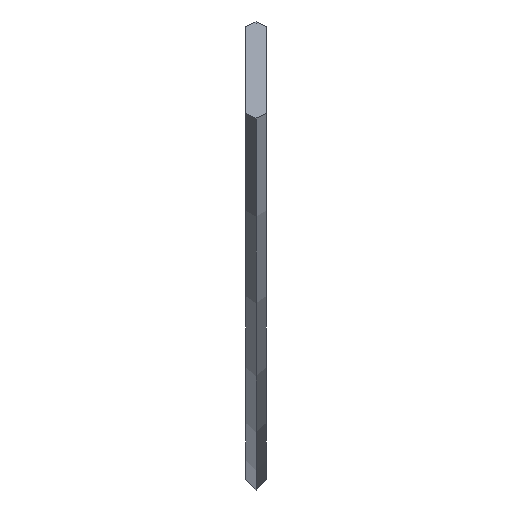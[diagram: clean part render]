
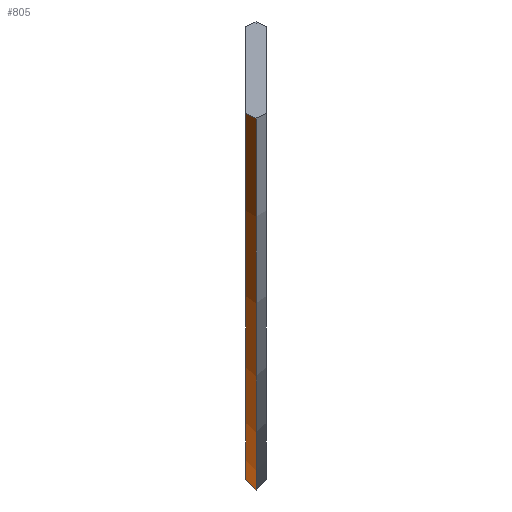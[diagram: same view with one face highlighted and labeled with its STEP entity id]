
A CAD part, front view. The second image highlights one B-rep face of the part: STEP entity #805.
In plain terms, the highlighted conical face has half-angle 45 degrees and reference radius 214 mm.
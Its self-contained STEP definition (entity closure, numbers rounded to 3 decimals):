
#43 = PLANE('',#44);
#44 = AXIS2_PLACEMENT_3D('',#45,#46,#47);
#45 = CARTESIAN_POINT('',(0.,-0.883,-0.469));
#46 = DIRECTION('',(0.,0.469,-0.883));
#47 = DIRECTION('',(0.,-0.883,-0.469));
#71 = PLANE('',#72);
#72 = AXIS2_PLACEMENT_3D('',#73,#74,#75);
#73 = CARTESIAN_POINT('',(78.825,0.,0.));
#74 = DIRECTION('',(1.,0.,0.));
#75 = DIRECTION('',(-0.,1.,0.));
#98 = PLANE('',#99);
#99 = AXIS2_PLACEMENT_3D('',#100,#101,#102);
#100 = CARTESIAN_POINT('',(0.,353.179,-187.789));
#101 = DIRECTION('',(0.,-0.469,-0.883));
#102 = DIRECTION('',(0.,-0.883,0.469));
#188 = VERTEX_POINT('',#189);
#189 = CARTESIAN_POINT('',(82.,-188.951,-100.467));
#202 = CONICAL_SURFACE('',#203,210.825,0.785);
#203 = AXIS2_PLACEMENT_3D('',#204,#205,#206);
#204 = CARTESIAN_POINT('',(85.175,0.,0.));
#205 = DIRECTION('',(-1.,-0.,-0.));
#206 = DIRECTION('',(0.,1.,0.));
#213 = EDGE_CURVE('',#214,#188,#216,.T.);
#214 = VERTEX_POINT('',#215);
#215 = CARTESIAN_POINT('',(78.825,-186.147,-98.976));
#216 = SURFACE_CURVE('',#217,(#221,#227),.PCURVE_S1.);
#217 = LINE('',#218,#219);
#218 = CARTESIAN_POINT('',(-132.,0.,0.));
#219 = VECTOR('',#220,1.);
#220 = DIRECTION('',(0.707,-0.624,-0.332));
#221 = PCURVE('',#43,#222);
#222 = DEFINITIONAL_REPRESENTATION('',(#223),#226);
#223 = B_SPLINE_CURVE_WITH_KNOTS('',1,(#224,#225),.UNSPECIFIED.,.F.,.F.,
  (2,2),(298.152,302.642),.PIECEWISE_BEZIER_KNOTS.);
#224 = CARTESIAN_POINT('',(209.825,-78.825));
#225 = CARTESIAN_POINT('',(213.,-82.));
#226 = ( GEOMETRIC_REPRESENTATION_CONTEXT(2) 
PARAMETRIC_REPRESENTATION_CONTEXT() REPRESENTATION_CONTEXT('2D SPACE',''
  ) );
#227 = PCURVE('',#228,#233);
#228 = CONICAL_SURFACE('',#229,214.,0.785);
#229 = AXIS2_PLACEMENT_3D('',#230,#231,#232);
#230 = CARTESIAN_POINT('',(82.,0.,0.));
#231 = DIRECTION('',(1.,0.,0.));
#232 = DIRECTION('',(0.,1.,0.));
#233 = DEFINITIONAL_REPRESENTATION('',(#234),#237);
#234 = B_SPLINE_CURVE_WITH_KNOTS('',1,(#235,#236),.UNSPECIFIED.,.F.,.F.,
  (2,2),(298.152,302.642),.PIECEWISE_BEZIER_KNOTS.);
#235 = CARTESIAN_POINT('',(3.63,-3.175));
#236 = CARTESIAN_POINT('',(3.63,0.));
#237 = ( GEOMETRIC_REPRESENTATION_CONTEXT(2) 
PARAMETRIC_REPRESENTATION_CONTEXT() REPRESENTATION_CONTEXT('2D SPACE',''
  ) );
#312 = VERTEX_POINT('',#313);
#313 = CARTESIAN_POINT('',(78.825,186.147,-98.976));
#332 = EDGE_CURVE('',#312,#333,#335,.T.);
#333 = VERTEX_POINT('',#334);
#334 = CARTESIAN_POINT('',(82.,188.951,-100.467));
#335 = SURFACE_CURVE('',#336,(#340,#346),.PCURVE_S1.);
#336 = LINE('',#337,#338);
#337 = CARTESIAN_POINT('',(-132.,0.,0.));
#338 = VECTOR('',#339,1.);
#339 = DIRECTION('',(0.707,0.624,-0.332));
#340 = PCURVE('',#98,#341);
#341 = DEFINITIONAL_REPRESENTATION('',(#342),#345);
#342 = B_SPLINE_CURVE_WITH_KNOTS('',1,(#343,#344),.UNSPECIFIED.,.F.,.F.,
  (2,2),(298.152,302.642),.PIECEWISE_BEZIER_KNOTS.);
#343 = CARTESIAN_POINT('',(189.175,-78.825));
#344 = CARTESIAN_POINT('',(186.,-82.));
#345 = ( GEOMETRIC_REPRESENTATION_CONTEXT(2) 
PARAMETRIC_REPRESENTATION_CONTEXT() REPRESENTATION_CONTEXT('2D SPACE',''
  ) );
#346 = PCURVE('',#228,#347);
#347 = DEFINITIONAL_REPRESENTATION('',(#348),#351);
#348 = B_SPLINE_CURVE_WITH_KNOTS('',1,(#349,#350),.UNSPECIFIED.,.F.,.F.,
  (2,2),(298.152,302.642),.PIECEWISE_BEZIER_KNOTS.);
#349 = CARTESIAN_POINT('',(5.794,-3.175));
#350 = CARTESIAN_POINT('',(5.794,0.));
#351 = ( GEOMETRIC_REPRESENTATION_CONTEXT(2) 
PARAMETRIC_REPRESENTATION_CONTEXT() REPRESENTATION_CONTEXT('2D SPACE',''
  ) );
#397 = EDGE_CURVE('',#214,#312,#398,.T.);
#398 = SURFACE_CURVE('',#399,(#404,#411),.PCURVE_S1.);
#399 = CIRCLE('',#400,210.825);
#400 = AXIS2_PLACEMENT_3D('',#401,#402,#403);
#401 = CARTESIAN_POINT('',(78.825,0.,0.));
#402 = DIRECTION('',(1.,0.,0.));
#403 = DIRECTION('',(-0.,1.,0.));
#404 = PCURVE('',#71,#405);
#405 = DEFINITIONAL_REPRESENTATION('',(#406),#410);
#406 = CIRCLE('',#407,210.825);
#407 = AXIS2_PLACEMENT_2D('',#408,#409);
#408 = CARTESIAN_POINT('',(0.,0.));
#409 = DIRECTION('',(1.,0.));
#410 = ( GEOMETRIC_REPRESENTATION_CONTEXT(2) 
PARAMETRIC_REPRESENTATION_CONTEXT() REPRESENTATION_CONTEXT('2D SPACE',''
  ) );
#411 = PCURVE('',#228,#412);
#412 = DEFINITIONAL_REPRESENTATION('',(#413),#417);
#413 = LINE('',#414,#415);
#414 = CARTESIAN_POINT('',(0.,-3.175));
#415 = VECTOR('',#416,1.);
#416 = DIRECTION('',(1.,-0.));
#417 = ( GEOMETRIC_REPRESENTATION_CONTEXT(2) 
PARAMETRIC_REPRESENTATION_CONTEXT() REPRESENTATION_CONTEXT('2D SPACE',''
  ) );
#805 = ADVANCED_FACE('',(#806),#228,.T.);
#806 = FACE_BOUND('',#807,.F.);
#807 = EDGE_LOOP('',(#808,#809,#831,#832));
#808 = ORIENTED_EDGE('',*,*,#213,.T.);
#809 = ORIENTED_EDGE('',*,*,#810,.T.);
#810 = EDGE_CURVE('',#188,#333,#811,.T.);
#811 = SURFACE_CURVE('',#812,(#817,#824),.PCURVE_S1.);
#812 = CIRCLE('',#813,214.);
#813 = AXIS2_PLACEMENT_3D('',#814,#815,#816);
#814 = CARTESIAN_POINT('',(82.,0.,0.));
#815 = DIRECTION('',(1.,0.,0.));
#816 = DIRECTION('',(-0.,1.,0.));
#817 = PCURVE('',#228,#818);
#818 = DEFINITIONAL_REPRESENTATION('',(#819),#823);
#819 = LINE('',#820,#821);
#820 = CARTESIAN_POINT('',(0.,-0.));
#821 = VECTOR('',#822,1.);
#822 = DIRECTION('',(1.,-0.));
#823 = ( GEOMETRIC_REPRESENTATION_CONTEXT(2) 
PARAMETRIC_REPRESENTATION_CONTEXT() REPRESENTATION_CONTEXT('2D SPACE',''
  ) );
#824 = PCURVE('',#202,#825);
#825 = DEFINITIONAL_REPRESENTATION('',(#826),#830);
#826 = LINE('',#827,#828);
#827 = CARTESIAN_POINT('',(-0.,3.175));
#828 = VECTOR('',#829,1.);
#829 = DIRECTION('',(-1.,0.));
#830 = ( GEOMETRIC_REPRESENTATION_CONTEXT(2) 
PARAMETRIC_REPRESENTATION_CONTEXT() REPRESENTATION_CONTEXT('2D SPACE',''
  ) );
#831 = ORIENTED_EDGE('',*,*,#332,.F.);
#832 = ORIENTED_EDGE('',*,*,#397,.F.);
